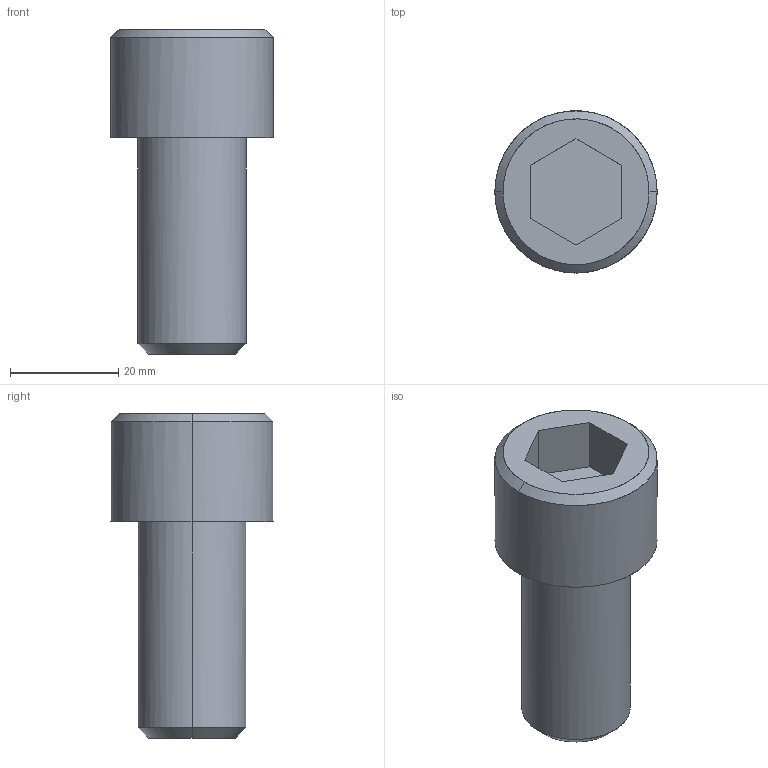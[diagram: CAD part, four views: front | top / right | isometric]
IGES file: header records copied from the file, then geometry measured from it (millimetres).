
Global section: file name: E:\UnigraphicsGraphicData\MISUMI_PRESS-PARTS\IGES\3d_cb20-40_00447_r00.igs; native system: NX V5.0; preprocessor: UGS NX IGES V5.0; author: MISUMI; date: 20110105.160146; units: millimetre
Bounding box: 30 x 30 x 60 mm (x, y, z)
Surface area: 6236.2 mm2 (no closed solid volume)
Topology: 0 solids, 0 shells, 18 faces, 116 edges, 116 vertices
Faces by surface type: bspline 18
